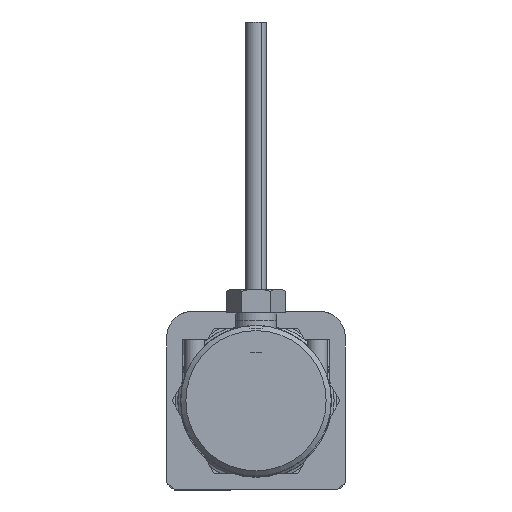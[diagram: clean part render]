
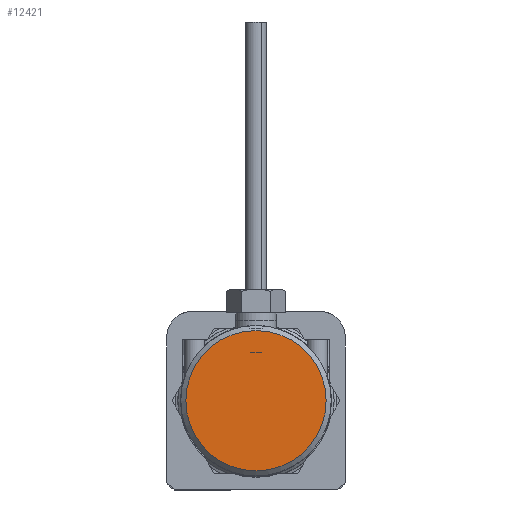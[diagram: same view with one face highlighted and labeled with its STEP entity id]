
A CAD part, front view. The second image highlights one B-rep face of the part: STEP entity #12421.
In plain terms, the highlighted planar face has unit normal (0, -1, 0) as drawn and (-1, 0, 0) by its records, which use the part's own axes.
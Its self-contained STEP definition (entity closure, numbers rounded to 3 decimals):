
#666=PLANE('',#13344);
#1398=CIRCLE('',#13345,13.75);
#2231=ORIENTED_EDGE('',*,*,#5516,.T.);
#5516=EDGE_CURVE('',#7204,#7204,#1398,.T.);
#7204=VERTEX_POINT('',#21299);
#9399=EDGE_LOOP('',(#2231));
#10319=FACE_BOUND('',#9399,.T.);
#12421=ADVANCED_FACE('',(#10319),#666,.T.);
#13344=AXIS2_PLACEMENT_3D('',#21297,#14663,#14664);
#13345=AXIS2_PLACEMENT_3D('',#21298,#14665,#14666);
#14663=DIRECTION('',(-1.,0.,0.));
#14664=DIRECTION('',(0.,-1.,0.));
#14665=DIRECTION('',(-1.,0.,0.));
#14666=DIRECTION('',(0.,-1.,0.));
#21297=CARTESIAN_POINT('',(0.,0.,0.));
#21298=CARTESIAN_POINT('',(0.,0.,0.));
#21299=CARTESIAN_POINT('',(0.,-13.75,0.));
